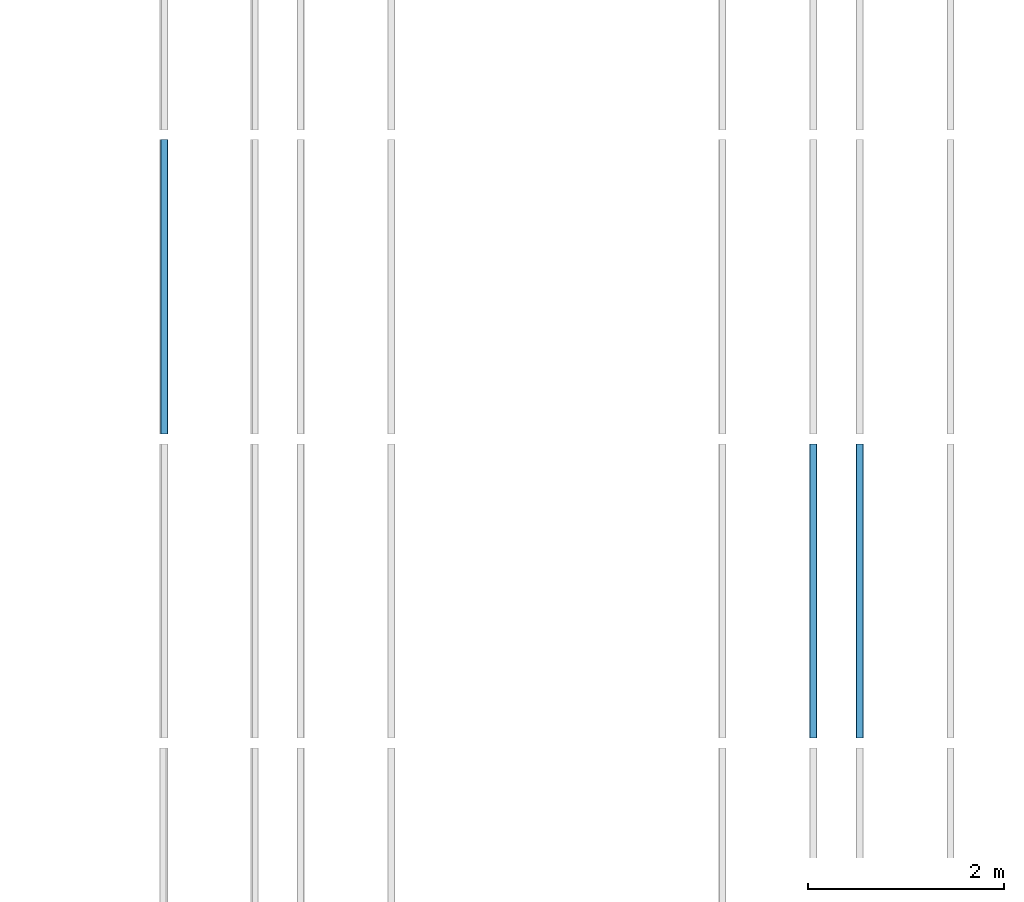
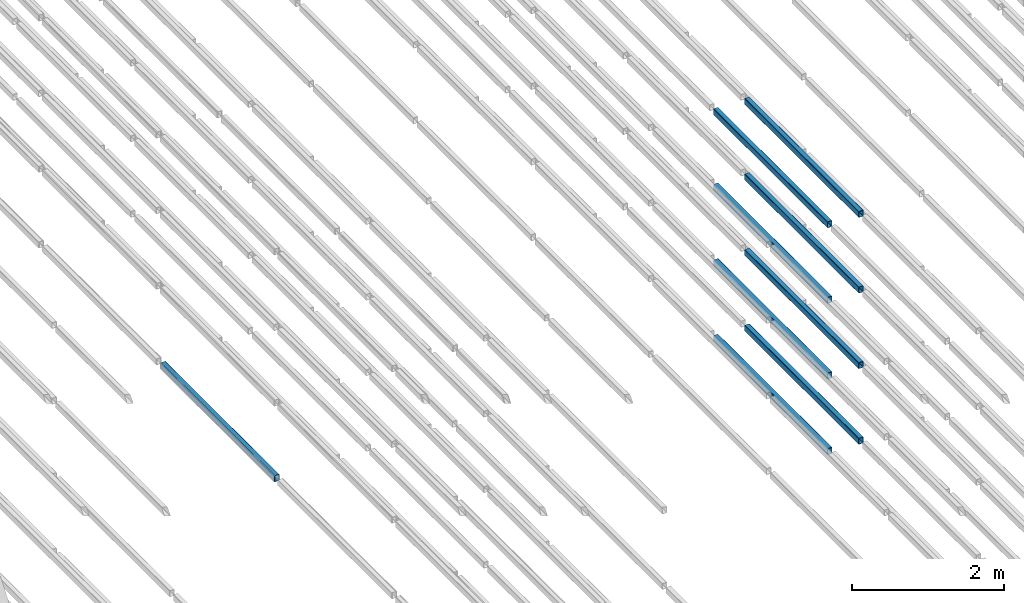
# One storey, part 45 of 290: 9 beams.
"""IFC2X3 building model written with IfcOpenShell, lengths in metres."""

import ifcopenshell
import ifcopenshell.guid

model = None  # the IFC model being written
_history = None  # IfcOwnerHistory: only IFC2X3 demands one
_inside = {}  # id of a spatial element -> (the spatial element, [elements in it])
_under = {}  # id of a project, library or spatial element -> (it, [spatial elements below it])
_declared = {}  # id of a project -> (the project, [libraries it declares])
_typed = {}  # id of a type object -> (the type object, [elements of that type])
_made_of = {}  # id of a material, layer set ... -> (it, [elements and type objects made of it])


def new_model(schema):
    """Start an empty IFC model of exactly this schema.

    Asked for "IFC4X3", IfcOpenShell would pick the latest addendum, in which some entities
    have other attributes; the version numbers below select the first issue.
    IFC2X3 requires an IfcOwnerHistory on every rooted entity: one is made here for all.
    """
    global model, _history
    if schema == "IFC4X3":
        model = ifcopenshell.file(schema_version=(4, 3, 0, 0))
    else:
        model = ifcopenshell.file(schema=schema)
    _inside.clear()
    _under.clear()
    _declared.clear()
    _typed.clear()
    _made_of.clear()
    _history = None
    if model.schema == "IFC2X3":
        org = make("IfcOrganization", Name="unknown")
        user = make(
            "IfcPersonAndOrganization",
            ThePerson=make("IfcPerson", FamilyName="unknown"),
            TheOrganization=org,
        )
        app = make(
            "IfcApplication",
            ApplicationDeveloper=org,
            Version="unknown",
            ApplicationFullName="unknown",
            ApplicationIdentifier="unknown",
        )
        _history = make(
            "IfcOwnerHistory",
            OwningUser=user,
            OwningApplication=app,
            ChangeAction="ADDED",
            CreationDate=0,
        )
    return model


def make(cls, **values):
    """One entity of the class cls with the attributes given. An attribute that is None is left unset."""
    return model.create_entity(
        cls, **{name: value for name, value in values.items() if value is not None}
    )


def entity(cls, *values):
    """Any entity or typed value of the class cls, its attributes in the order of the schema. None: left unset."""
    e = model.create_entity(cls)
    for i, value in enumerate(values):
        if value is not None:
            e[i] = value
    return e


def rooted(cls, **values):
    """An entity with a GlobalId (a new one), such as an element, a storey or a relation."""
    return make(cls, GlobalId=ifcopenshell.guid.new(), OwnerHistory=_history, **values)


def si_unit(unit_type, name, prefix=None):
    """IfcSIUnit, for example si_unit("LENGTHUNIT", "METRE", prefix="MILLI")."""
    return make("IfcSIUnit", UnitType=unit_type, Prefix=prefix, Name=name)


def converted_unit(unit_type, name, factor, base, dimensions=None, offset=None):
    """IfcConversionBasedUnit, such as the inch: factor (a typed value) times the base unit."""
    return make(
        "IfcConversionBasedUnit"
        if offset is None
        else "IfcConversionBasedUnitWithOffset",
        ConversionOffset=offset,
        Dimensions=None
        if dimensions is None
        else entity("IfcDimensionalExponents", *dimensions),
        UnitType=unit_type,
        Name=name,
        ConversionFactor=make(
            "IfcMeasureWithUnit", ValueComponent=factor, UnitComponent=base
        ),
    )


def derived_unit(unit_type, elements):
    """IfcDerivedUnit: a product of units, each with its exponent."""
    return make(
        "IfcDerivedUnit",
        Elements=[
            make("IfcDerivedUnitElement", Unit=unit, Exponent=power)
            for unit, power in elements
        ],
        UnitType=unit_type,
    )


def assignment(units):
    """IfcUnitAssignment: the units of a project."""
    return None if units is None else make("IfcUnitAssignment", Units=units)


def point(xyz):
    """IfcCartesianPoint."""
    return None if xyz is None else make("IfcCartesianPoint", Coordinates=xyz)


def direction(xyz):
    """IfcDirection."""
    return None if xyz is None else make("IfcDirection", DirectionRatios=xyz)


def frame(location, z_axis=None, x_axis=None):
    """IfcAxis2Placement3D, a coordinate frame: its origin and axes. An axis left out is left unset."""
    return make(
        "IfcAxis2Placement3D",
        Location=point(location),
        Axis=direction(z_axis),
        RefDirection=direction(x_axis),
    )


def frame_2d(location, x_axis=None):
    """IfcAxis2Placement2D, a coordinate frame in the plane: its origin and x axis."""
    return make(
        "IfcAxis2Placement2D", Location=point(location), RefDirection=direction(x_axis)
    )


def origin():
    """The frame at (0, 0, 0) with its axes left unset."""
    return frame((0.0, 0.0, 0.0))


def place(relative_to, where):
    """IfcLocalPlacement: puts the frame where relative to a parent placement (None: the world)."""
    return make(
        "IfcLocalPlacement", PlacementRelTo=relative_to, RelativePlacement=where
    )


def context(
    kind, dimensions, precision=None, world=None, true_north=None, identifier=None
):
    """IfcGeometricRepresentationContext, for example the 3D "Model" context."""
    return make(
        "IfcGeometricRepresentationContext",
        ContextIdentifier=identifier,
        ContextType=kind,
        CoordinateSpaceDimension=dimensions,
        Precision=precision,
        WorldCoordinateSystem=world,
        TrueNorth=true_north,
    )


def subcontext(parent, identifier, kind, view, scale=None):
    """IfcGeometricRepresentationSubContext, for example "Body" below "Model"."""
    return make(
        "IfcGeometricRepresentationSubContext",
        ContextIdentifier=identifier,
        ContextType=kind,
        ParentContext=parent,
        TargetScale=scale,
        TargetView=view,
    )


def project(units=None, contexts=None):
    """IfcProject with its units and contexts."""
    return rooted(
        "IfcProject",
        Name="project",
        RepresentationContexts=contexts,
        UnitsInContext=assignment(units),
    )


def spatial(cls, under=None, at=None, **own):
    """A site, building, storey or space (cls), placed at a placement, below another one or the project."""
    s = rooted(cls, ObjectPlacement=at, **own)
    if under is not None:
        _under.setdefault(under.id(), (under, []))[1].append(s)
    return s


def polyline(points):
    """IfcPolyline through the points."""
    return make("IfcPolyline", Points=[point(p) for p in points])


def circle_curve(where, radius):
    """IfcCircle in the frame where."""
    return make("IfcCircle", Position=where, Radius=radius)


def parameter(value):
    """IfcParameterValue: where a trimmed curve begins or ends, as a parameter of its basis curve."""
    return model.create_entity("IfcParameterValue", value)


def trimmed(basis, trim1, trim2, sense, master):
    """IfcTrimmedCurve: the piece of a basis curve between two trims."""
    return make(
        "IfcTrimmedCurve",
        BasisCurve=basis,
        Trim1=trim1,
        Trim2=trim2,
        SenseAgreement=sense,
        MasterRepresentation=master,
    )


def segment(curve, same_sense, transition):
    """IfcCompositeCurveSegment."""
    return make(
        "IfcCompositeCurveSegment",
        Transition=transition,
        SameSense=same_sense,
        ParentCurve=curve,
    )


def composite_curve(segments, self_intersect=None):
    """IfcCompositeCurve: segments joined end to end."""
    return make("IfcCompositeCurve", Segments=segments, SelfIntersect=self_intersect)


def outline(outer, holes=None, kind="AREA"):
    """IfcArbitraryClosedProfileDef: a profile drawn as a closed curve; with holes, ...WithVoids."""
    if holes is None:
        return make("IfcArbitraryClosedProfileDef", ProfileType=kind, OuterCurve=outer)
    return make(
        "IfcArbitraryProfileDefWithVoids",
        ProfileType=kind,
        OuterCurve=outer,
        InnerCurves=holes,
    )


def extrude(swept, where, along, depth):
    """IfcExtrudedAreaSolid: the profile swept, set in the frame where, extruded along a direction by depth."""
    return make(
        "IfcExtrudedAreaSolid",
        SweptArea=swept,
        Position=where,
        ExtrudedDirection=direction(along),
        Depth=depth,
    )


def shape(context_of_items, identifier, shape_type, items):
    """IfcShapeRepresentation: the items that make up one representation, for example the "Body"."""
    return make(
        "IfcShapeRepresentation",
        ContextOfItems=context_of_items,
        RepresentationIdentifier=identifier,
        RepresentationType=shape_type,
        Items=items,
    )


def material(Name=None, Category=None):
    """IfcMaterial."""
    return make("IfcMaterial", Name=Name, Category=Category)


def made_of(thing, what):
    """Note that an element or type object is made of a material, layer set ...; save() writes the relation."""
    if what is not None:
        _made_of.setdefault(what.id(), (what, []))[1].append(thing)
    return thing


def type_object(cls, material=None, **own):
    """A type object (cls), such as IfcWallType, which elements share."""
    return made_of(rooted(cls, **own), material)


def element(
    cls,
    number,
    at=None,
    inside=None,
    cuts=None,
    type_object=None,
    material=None,
    context=None,
    identifier="Body",
    shape_type=None,
    held_by="IfcProductDefinitionShape",
    body=None,
    shapes=None,
    **own,
):
    """One element of the class cls, such as IfcWall. Its Tag is "e" and its number.

    at: its placement. inside: the storey or other place that contains it. cuts: it is an
    opening in that element (IfcRelVoidsElement). A single representation is given by context,
    identifier, shape_type and body (its items); several are given by shapes. held_by: the class
    of the entity that holds the representations. save() writes the other relations.
    """
    e = rooted(cls, Tag="e%d" % number, ObjectPlacement=at, **own)
    if body is not None:
        shapes = [shape(context, identifier, shape_type, body)]
    if shapes is not None:
        e.Representation = make(held_by, Representations=shapes)
    if inside is not None:
        _inside.setdefault(inside.id(), (inside, []))[1].append(e)
    if cuts is not None:
        rooted(
            "IfcRelVoidsElement", RelatingBuildingElement=cuts, RelatedOpeningElement=e
        )
    if type_object is not None:
        _typed.setdefault(type_object.id(), (type_object, []))[1].append(e)
    return made_of(e, material)


def aggregate(whole, parts):
    """IfcRelAggregates: a whole, such as a stair, and the parts it consists of."""
    return rooted("IfcRelAggregates", RelatingObject=whole, RelatedObjects=parts)


def save(model, path):
    """Write the relations noted so far, then the file.

    IfcRelAggregates (storeys below a building ...), IfcRelContainedInSpatialStructure (elements
    in a storey), IfcRelDefinesByType, IfcRelAssociatesMaterial and IfcRelDeclares: one each for
    every whole, place, type object, material and project.
    """
    for whole, parts in _under.values():
        aggregate(whole, parts)
    for where, things in _inside.values():
        rooted(
            "IfcRelContainedInSpatialStructure",
            RelatedElements=things,
            RelatingStructure=where,
        )
    for kind, things in _typed.values():
        rooted("IfcRelDefinesByType", RelatedObjects=things, RelatingType=kind)
    for what, things in _made_of.values():
        rooted("IfcRelAssociatesMaterial", RelatedObjects=things, RelatingMaterial=what)
    for by, libraries in _declared.values():
        rooted("IfcRelDeclares", RelatingContext=by, RelatedDefinitions=libraries)
    model.write(path)


model = new_model("IFC2X3")

# Units and contexts
model_context = context("Model", 3, precision=1e-05, world=origin(), true_north=direction((6.12303176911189e-17, 1.0)))
body_context = subcontext(model_context, "Body", "Model", "MODEL_VIEW")
ifc_project = project(units=[si_unit("LENGTHUNIT", "METRE"), si_unit("AREAUNIT", "SQUARE_METRE"), si_unit("VOLUMEUNIT", "CUBIC_METRE"), converted_unit("PLANEANGLEUNIT", "DEGREE", entity("IfcRatioMeasure", 0.0174532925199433), si_unit("PLANEANGLEUNIT", "RADIAN"), dimensions=[0, 0, 0, 0, 0, 0, 0]), si_unit("MASSUNIT", "GRAM", prefix="KILO"), derived_unit("MASSDENSITYUNIT", [(si_unit("MASSUNIT", "GRAM", prefix="KILO"), 1), (si_unit("LENGTHUNIT", "METRE"), -3)]), derived_unit("MOMENTOFINERTIAUNIT", [(si_unit("LENGTHUNIT", "METRE"), 4)]), si_unit("TIMEUNIT", "SECOND"), si_unit("FREQUENCYUNIT", "HERTZ"), si_unit("THERMODYNAMICTEMPERATUREUNIT", "DEGREE_CELSIUS"), derived_unit("THERMALTRANSMITTANCEUNIT", [(si_unit("MASSUNIT", "GRAM", prefix="KILO"), 1), (si_unit("THERMODYNAMICTEMPERATUREUNIT", "KELVIN"), -1), (si_unit("TIMEUNIT", "SECOND"), -3)]), derived_unit("VOLUMETRICFLOWRATEUNIT", [(si_unit("LENGTHUNIT", "METRE"), 3), (si_unit("TIMEUNIT", "SECOND"), -1)]), si_unit("ELECTRICCURRENTUNIT", "AMPERE"), si_unit("ELECTRICVOLTAGEUNIT", "VOLT"), si_unit("POWERUNIT", "WATT"), si_unit("FORCEUNIT", "NEWTON", prefix="KILO"), si_unit("ILLUMINANCEUNIT", "LUX"), si_unit("LUMINOUSFLUXUNIT", "LUMEN"), si_unit("LUMINOUSINTENSITYUNIT", "CANDELA"), derived_unit("USERDEFINED", [(si_unit("MASSUNIT", "GRAM", prefix="KILO"), -1), (si_unit("LENGTHUNIT", "METRE"), -2), (si_unit("TIMEUNIT", "SECOND"), 3), (si_unit("LUMINOUSFLUXUNIT", "LUMEN"), 1)]), derived_unit("LINEARVELOCITYUNIT", [(si_unit("LENGTHUNIT", "METRE"), 1), (si_unit("TIMEUNIT", "SECOND"), -1)]), si_unit("PRESSUREUNIT", "PASCAL"), derived_unit("USERDEFINED", [(si_unit("LENGTHUNIT", "METRE"), -2), (si_unit("MASSUNIT", "GRAM", prefix="KILO"), 1), (si_unit("TIMEUNIT", "SECOND"), -2)]), derived_unit("LINEARFORCEUNIT", [(si_unit("MASSUNIT", "GRAM", prefix="KILO"), 1), (si_unit("LENGTHUNIT", "METRE"), 1), (si_unit("TIMEUNIT", "SECOND"), -2), (si_unit("LENGTHUNIT", "METRE"), -1)]), derived_unit("PLANARFORCEUNIT", [(si_unit("MASSUNIT", "GRAM", prefix="KILO"), 1), (si_unit("LENGTHUNIT", "METRE"), 1), (si_unit("TIMEUNIT", "SECOND"), -2), (si_unit("LENGTHUNIT", "METRE"), -2)])], contexts=[model_context])

# Site, building, storey
site_placement = place(None, origin())
site = spatial("IfcSite", under=ifc_project, at=site_placement, Name="Default", CompositionType="ELEMENT")
building_placement = place(site_placement, origin())
building = spatial("IfcBuilding", under=site, at=building_placement, CompositionType="ELEMENT")
storey_placement = place(building_placement, frame((0.0, 0.0, 4.0)))
storey = spatial("IfcBuildingStorey", under=building, at=storey_placement, Name="01_OG", CompositionType="ELEMENT", Elevation=4.0)

# Beams
ifc_material = material(Name="Metall - Baustahl S235 blau")
beam_type = type_object("IfcBeamType", Name="RHS Träger (EN 10219-2):RHS 100 x 75 x 5", PredefinedType="NOTDEFINED")
beam_1_placement = place(storey_placement, frame((-195.565111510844, 33.348088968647, -1.2), z_axis=(0.0, 0.0, 1.0), x_axis=(0.0, 1.0, 0.0)))
element("IfcBeam", 1, at=beam_1_placement, inside=storey, type_object=beam_type, material=ifc_material, Name="RHS Träger (EN 10219-2):RHS 100 x 75 x 5", ObjectType="RHS Träger (EN 10219-2):RHS 100 x 75 x 5", context=body_context, shape_type="SweptSolid", body=[
    extrude(outline(composite_curve([segment(polyline([(-0.0400000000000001, -0.0374999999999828), (0.0400000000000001, -0.0374999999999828)]), True, "CONTINUOUS"), segment(trimmed(circle_curve(frame_2d((0.0400000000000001, -0.0274999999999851), x_axis=(0.0, 1.0)), 0.01), [parameter(180.0)], [parameter(270.0)], True, "PARAMETER"), True, "CONTINUOUS"), segment(polyline([(0.05, -0.0274999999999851), (0.05, 0.0274999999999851)]), True, "CONTINUOUS"), segment(trimmed(circle_curve(frame_2d((0.0400000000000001, 0.0274999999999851), x_axis=(0.0, 1.0)), 0.01), [parameter(270.0)], [parameter(4.07110999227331e-13)], True, "PARAMETER"), True, "CONTINUOUS"), segment(polyline([(0.0400000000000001, 0.0375000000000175), (-0.0400000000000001, 0.0375000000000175)]), True, "CONTINUOUS"), segment(trimmed(circle_curve(frame_2d((-0.0400000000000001, 0.0274999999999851), x_axis=(0.0, 1.0)), 0.01), [parameter(360.0)], [parameter(90.0000000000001)], True, "PARAMETER"), True, "CONTINUOUS"), segment(polyline([(-0.05, 0.0274999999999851), (-0.05, -0.0274999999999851)]), True, "CONTINUOUS"), segment(trimmed(circle_curve(frame_2d((-0.0400000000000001, -0.0274999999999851), x_axis=(0.0, 1.0)), 0.01), [parameter(90.0000000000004)], [parameter(180.0)], True, "PARAMETER"), True, "CONTINUOUS")], self_intersect=False), holes=[composite_curve([segment(trimmed(circle_curve(frame_2d((-0.0400000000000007, 0.0274999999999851), x_axis=(0.0, 1.0)), 0.005), [parameter(360.0)], [parameter(89.9999999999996)], True, "PARAMETER"), False, "CONTINUOUS"), segment(polyline([(-0.0400000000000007, 0.0325000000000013), (0.039999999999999, 0.0325000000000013)]), True, "CONTINUOUS"), segment(trimmed(circle_curve(frame_2d((0.039999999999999, 0.0274999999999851), x_axis=(0.0, 1.0)), 0.005), [parameter(270.0)], [parameter(0.0)], True, "PARAMETER"), False, "CONTINUOUS"), segment(polyline([(0.044999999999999, 0.0274999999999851), (0.044999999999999, -0.0274999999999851)]), True, "CONTINUOUS"), segment(trimmed(circle_curve(frame_2d((0.039999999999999, -0.0274999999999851), x_axis=(0.0, 1.0)), 0.005), [parameter(180.0)], [parameter(269.999999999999)], True, "PARAMETER"), False, "CONTINUOUS"), segment(polyline([(0.039999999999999, -0.0325000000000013), (-0.0400000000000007, -0.0325000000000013)]), True, "CONTINUOUS"), segment(trimmed(circle_curve(frame_2d((-0.0400000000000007, -0.0274999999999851), x_axis=(0.0, 1.0)), 0.005), [parameter(90.0000000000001)], [parameter(180.0)], True, "PARAMETER"), False, "CONTINUOUS"), segment(polyline([(-0.0450000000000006, -0.0274999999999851), (-0.0450000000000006, 0.0274999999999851)]), True, "CONTINUOUS")], self_intersect=False)]), frame((0.000100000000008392, -0.0375000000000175, -0.0500000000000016), z_axis=(1.0, 0.0, 0.0), x_axis=(0.0, 0.0, -1.0)), (0.0, 0.0, 1.0), 2.9998),
])
beam_2_placement = place(storey_placement, frame((-195.565111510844, 33.348088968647, 0.0150000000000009), z_axis=(0.0, 0.0, 1.0), x_axis=(0.0, 1.0, 0.0)))
element("IfcBeam", 2, at=beam_2_placement, inside=storey, type_object=beam_type, material=ifc_material, Name="RHS Träger (EN 10219-2):RHS 100 x 75 x 5", ObjectType="RHS Träger (EN 10219-2):RHS 100 x 75 x 5", context=body_context, shape_type="SweptSolid", body=[
    extrude(outline(composite_curve([segment(polyline([(-0.0400000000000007, -0.0374999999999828), (0.0399999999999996, -0.0374999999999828)]), True, "CONTINUOUS"), segment(trimmed(circle_curve(frame_2d((0.0399999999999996, -0.0274999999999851), x_axis=(0.0, 1.0)), 0.01), [parameter(180.0)], [parameter(270.0)], True, "PARAMETER"), True, "CONTINUOUS"), segment(polyline([(0.0499999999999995, -0.0274999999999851), (0.0499999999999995, 0.0274999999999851)]), True, "CONTINUOUS"), segment(trimmed(circle_curve(frame_2d((0.0399999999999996, 0.0274999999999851), x_axis=(0.0, 1.0)), 0.01), [parameter(270.0)], [parameter(4.07110999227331e-13)], True, "PARAMETER"), True, "CONTINUOUS"), segment(polyline([(0.0399999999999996, 0.0375000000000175), (-0.0400000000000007, 0.0375000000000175)]), True, "CONTINUOUS"), segment(trimmed(circle_curve(frame_2d((-0.0400000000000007, 0.0274999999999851), x_axis=(0.0, 1.0)), 0.01), [parameter(360.0)], [parameter(90.0000000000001)], True, "PARAMETER"), True, "CONTINUOUS"), segment(polyline([(-0.0500000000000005, 0.0274999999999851), (-0.0500000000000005, -0.0274999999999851)]), True, "CONTINUOUS"), segment(trimmed(circle_curve(frame_2d((-0.0400000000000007, -0.0274999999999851), x_axis=(0.0, 1.0)), 0.01), [parameter(90.0000000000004)], [parameter(180.0)], True, "PARAMETER"), True, "CONTINUOUS")], self_intersect=False), holes=[composite_curve([segment(trimmed(circle_curve(frame_2d((-0.0400000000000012, 0.0274999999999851), x_axis=(0.0, 1.0)), 0.005), [parameter(360.0)], [parameter(89.9999999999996)], True, "PARAMETER"), False, "CONTINUOUS"), segment(polyline([(-0.0400000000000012, 0.0325000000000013), (0.0399999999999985, 0.0325000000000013)]), True, "CONTINUOUS"), segment(trimmed(circle_curve(frame_2d((0.0399999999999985, 0.0274999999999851), x_axis=(0.0, 1.0)), 0.005), [parameter(270.0)], [parameter(0.0)], True, "PARAMETER"), False, "CONTINUOUS"), segment(polyline([(0.0449999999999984, 0.0274999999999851), (0.0449999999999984, -0.0274999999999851)]), True, "CONTINUOUS"), segment(trimmed(circle_curve(frame_2d((0.0399999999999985, -0.0274999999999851), x_axis=(0.0, 1.0)), 0.005), [parameter(180.0)], [parameter(269.999999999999)], True, "PARAMETER"), False, "CONTINUOUS"), segment(polyline([(0.0399999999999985, -0.0325000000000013), (-0.0400000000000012, -0.0325000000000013)]), True, "CONTINUOUS"), segment(trimmed(circle_curve(frame_2d((-0.0400000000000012, -0.0274999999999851), x_axis=(0.0, 1.0)), 0.005), [parameter(90.0000000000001)], [parameter(180.0)], True, "PARAMETER"), False, "CONTINUOUS"), segment(polyline([(-0.0450000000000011, -0.0274999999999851), (-0.0450000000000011, 0.0274999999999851)]), True, "CONTINUOUS")], self_intersect=False)]), frame((0.000100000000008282, -0.0375000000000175, -0.0500000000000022), z_axis=(1.0, 0.0, 0.0), x_axis=(0.0, 0.0, -1.0)), (0.0, 0.0, 1.0), 2.9998),
])
beam_3_placement = place(storey_placement, frame((-195.565111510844, 33.348088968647, 1.23), z_axis=(0.0, 0.0, 1.0), x_axis=(0.0, 1.0, 0.0)))
element("IfcBeam", 3, at=beam_3_placement, inside=storey, type_object=beam_type, material=ifc_material, Name="RHS Träger (EN 10219-2):RHS 100 x 75 x 5", ObjectType="RHS Träger (EN 10219-2):RHS 100 x 75 x 5", context=body_context, shape_type="SweptSolid", body=[
    extrude(outline(composite_curve([segment(polyline([(-0.0399999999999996, -0.0374999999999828), (0.0399999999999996, -0.0374999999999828)]), True, "CONTINUOUS"), segment(trimmed(circle_curve(frame_2d((0.0399999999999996, -0.0274999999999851), x_axis=(0.0, 1.0)), 0.01), [parameter(180.0)], [parameter(270.0)], True, "PARAMETER"), True, "CONTINUOUS"), segment(polyline([(0.0500000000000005, -0.0274999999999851), (0.0500000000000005, 0.0274999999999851)]), True, "CONTINUOUS"), segment(trimmed(circle_curve(frame_2d((0.0399999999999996, 0.0274999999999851), x_axis=(0.0, 1.0)), 0.01), [parameter(270.0)], [parameter(4.07110999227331e-13)], True, "PARAMETER"), True, "CONTINUOUS"), segment(polyline([(0.0399999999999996, 0.0375000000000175), (-0.0399999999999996, 0.0375000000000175)]), True, "CONTINUOUS"), segment(trimmed(circle_curve(frame_2d((-0.0399999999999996, 0.0274999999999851), x_axis=(0.0, 1.0)), 0.01), [parameter(360.0)], [parameter(90.0000000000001)], True, "PARAMETER"), True, "CONTINUOUS"), segment(polyline([(-0.0499999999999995, 0.0274999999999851), (-0.0499999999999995, -0.0274999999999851)]), True, "CONTINUOUS"), segment(trimmed(circle_curve(frame_2d((-0.0399999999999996, -0.0274999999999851), x_axis=(0.0, 1.0)), 0.01), [parameter(90.0000000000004)], [parameter(180.0)], True, "PARAMETER"), True, "CONTINUOUS")], self_intersect=False), holes=[composite_curve([segment(trimmed(circle_curve(frame_2d((-0.0400000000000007, 0.0274999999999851), x_axis=(0.0, 1.0)), 0.005), [parameter(360.0)], [parameter(89.9999999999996)], True, "PARAMETER"), False, "CONTINUOUS"), segment(polyline([(-0.0400000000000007, 0.0325000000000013), (0.0399999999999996, 0.0325000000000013)]), True, "CONTINUOUS"), segment(trimmed(circle_curve(frame_2d((0.0399999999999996, 0.0274999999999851), x_axis=(0.0, 1.0)), 0.005), [parameter(270.0)], [parameter(0.0)], True, "PARAMETER"), False, "CONTINUOUS"), segment(polyline([(0.0449999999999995, 0.0274999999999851), (0.0449999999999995, -0.0274999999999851)]), True, "CONTINUOUS"), segment(trimmed(circle_curve(frame_2d((0.0399999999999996, -0.0274999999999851), x_axis=(0.0, 1.0)), 0.005), [parameter(180.0)], [parameter(269.999999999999)], True, "PARAMETER"), False, "CONTINUOUS"), segment(polyline([(0.0399999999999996, -0.0325000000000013), (-0.0400000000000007, -0.0325000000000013)]), True, "CONTINUOUS"), segment(trimmed(circle_curve(frame_2d((-0.0400000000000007, -0.0274999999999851), x_axis=(0.0, 1.0)), 0.005), [parameter(90.0000000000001)], [parameter(180.0)], True, "PARAMETER"), False, "CONTINUOUS"), segment(polyline([(-0.0450000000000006, -0.0274999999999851), (-0.0450000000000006, 0.0274999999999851)]), True, "CONTINUOUS")], self_intersect=False)]), frame((0.000100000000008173, -0.0375000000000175, -0.0500000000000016), z_axis=(1.0, 0.0, 0.0), x_axis=(0.0, 0.0, -1.0)), (0.0, 0.0, 1.0), 2.9998),
])
beam_4_placement = place(storey_placement, frame((-195.565111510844, 33.348088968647, 2.445), z_axis=(0.0, 0.0, 1.0), x_axis=(0.0, 1.0, 0.0)))
element("IfcBeam", 4, at=beam_4_placement, inside=storey, type_object=beam_type, material=ifc_material, Name="RHS Träger (EN 10219-2):RHS 100 x 75 x 5", ObjectType="RHS Träger (EN 10219-2):RHS 100 x 75 x 5", context=body_context, shape_type="SweptSolid", body=[
    extrude(outline(composite_curve([segment(polyline([(-0.0399999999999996, -0.0374999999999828), (0.0399999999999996, -0.0374999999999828)]), True, "CONTINUOUS"), segment(trimmed(circle_curve(frame_2d((0.0399999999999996, -0.0274999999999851), x_axis=(0.0, 1.0)), 0.01), [parameter(180.0)], [parameter(270.0)], True, "PARAMETER"), True, "CONTINUOUS"), segment(polyline([(0.0500000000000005, -0.0274999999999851), (0.0500000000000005, 0.0274999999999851)]), True, "CONTINUOUS"), segment(trimmed(circle_curve(frame_2d((0.0399999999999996, 0.0274999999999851), x_axis=(0.0, 1.0)), 0.01), [parameter(270.0)], [parameter(4.07110999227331e-13)], True, "PARAMETER"), True, "CONTINUOUS"), segment(polyline([(0.0399999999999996, 0.0375000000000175), (-0.0399999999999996, 0.0375000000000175)]), True, "CONTINUOUS"), segment(trimmed(circle_curve(frame_2d((-0.0399999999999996, 0.0274999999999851), x_axis=(0.0, 1.0)), 0.01), [parameter(360.0)], [parameter(90.0000000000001)], True, "PARAMETER"), True, "CONTINUOUS"), segment(polyline([(-0.0499999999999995, 0.0274999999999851), (-0.0499999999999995, -0.0274999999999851)]), True, "CONTINUOUS"), segment(trimmed(circle_curve(frame_2d((-0.0399999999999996, -0.0274999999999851), x_axis=(0.0, 1.0)), 0.01), [parameter(90.0000000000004)], [parameter(180.0)], True, "PARAMETER"), True, "CONTINUOUS")], self_intersect=False), holes=[composite_curve([segment(trimmed(circle_curve(frame_2d((-0.0400000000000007, 0.0274999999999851), x_axis=(0.0, 1.0)), 0.005), [parameter(360.0)], [parameter(89.9999999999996)], True, "PARAMETER"), False, "CONTINUOUS"), segment(polyline([(-0.0400000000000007, 0.0325000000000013), (0.0399999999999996, 0.0325000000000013)]), True, "CONTINUOUS"), segment(trimmed(circle_curve(frame_2d((0.0399999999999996, 0.0274999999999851), x_axis=(0.0, 1.0)), 0.005), [parameter(270.0)], [parameter(0.0)], True, "PARAMETER"), False, "CONTINUOUS"), segment(polyline([(0.0449999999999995, 0.0274999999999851), (0.0449999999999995, -0.0274999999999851)]), True, "CONTINUOUS"), segment(trimmed(circle_curve(frame_2d((0.0399999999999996, -0.0274999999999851), x_axis=(0.0, 1.0)), 0.005), [parameter(180.0)], [parameter(269.999999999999)], True, "PARAMETER"), False, "CONTINUOUS"), segment(polyline([(0.0399999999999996, -0.0325000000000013), (-0.0400000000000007, -0.0325000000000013)]), True, "CONTINUOUS"), segment(trimmed(circle_curve(frame_2d((-0.0400000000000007, -0.0274999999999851), x_axis=(0.0, 1.0)), 0.005), [parameter(90.0000000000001)], [parameter(180.0)], True, "PARAMETER"), False, "CONTINUOUS"), segment(polyline([(-0.0450000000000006, -0.0274999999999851), (-0.0450000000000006, 0.0274999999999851)]), True, "CONTINUOUS")], self_intersect=False)]), frame((0.000100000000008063, -0.0375000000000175, -0.0500000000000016), z_axis=(1.0, 0.0, 0.0), x_axis=(0.0, 0.0, -1.0)), (0.0, 0.0, 1.0), 2.9998),
])
beam_5_placement = place(storey_placement, frame((-195.015111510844, 33.348088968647, -1.2), z_axis=(0.0, 0.0, 1.0), x_axis=(0.0, 1.0, 0.0)))
element("IfcBeam", 5, at=beam_5_placement, inside=storey, type_object=beam_type, material=ifc_material, Name="RHS Träger (EN 10219-2):RHS 100 x 75 x 5", ObjectType="RHS Träger (EN 10219-2):RHS 100 x 75 x 5", context=body_context, shape_type="SweptSolid", body=[
    extrude(outline(composite_curve([segment(trimmed(circle_curve(frame_2d((-0.0275000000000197, -0.0400000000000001), x_axis=(1.0, 0.0)), 0.01), [parameter(180.0)], [parameter(270.0)], True, "PARAMETER"), True, "CONTINUOUS"), segment(polyline([(-0.0275000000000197, -0.05), (0.0274999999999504, -0.05)]), True, "CONTINUOUS"), segment(trimmed(circle_curve(frame_2d((0.0274999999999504, -0.0400000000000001), x_axis=(1.0, 0.0)), 0.01), [parameter(270.0)], [parameter(5.08888749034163e-14)], True, "PARAMETER"), True, "CONTINUOUS"), segment(polyline([(0.0374999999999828, -0.0400000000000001), (0.0374999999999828, 0.0400000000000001)]), True, "CONTINUOUS"), segment(trimmed(circle_curve(frame_2d((0.0274999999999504, 0.0400000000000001), x_axis=(1.0, 0.0)), 0.01), [parameter(360.0)], [parameter(89.9999999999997)], True, "PARAMETER"), True, "CONTINUOUS"), segment(polyline([(0.0274999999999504, 0.05), (-0.0275000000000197, 0.05)]), True, "CONTINUOUS"), segment(trimmed(circle_curve(frame_2d((-0.0275000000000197, 0.0400000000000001), x_axis=(1.0, 0.0)), 0.01), [parameter(90.0000000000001)], [parameter(180.0)], True, "PARAMETER"), True, "CONTINUOUS"), segment(polyline([(-0.0375000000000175, 0.0400000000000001), (-0.0375000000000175, -0.0400000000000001)]), True, "CONTINUOUS")], self_intersect=False), holes=[composite_curve([segment(polyline([(0.0274999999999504, -0.0450000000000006), (-0.0275000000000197, -0.0450000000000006)]), True, "CONTINUOUS"), segment(trimmed(circle_curve(frame_2d((-0.0275000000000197, -0.0400000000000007), x_axis=(1.0, 0.0)), 0.005), [parameter(180.0)], [parameter(270.0)], True, "PARAMETER"), False, "CONTINUOUS"), segment(polyline([(-0.0325000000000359, -0.0400000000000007), (-0.0325000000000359, 0.039999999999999)]), True, "CONTINUOUS"), segment(trimmed(circle_curve(frame_2d((-0.0275000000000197, 0.039999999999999), x_axis=(1.0, 0.0)), 0.005), [parameter(90.0000000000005)], [parameter(180.0)], True, "PARAMETER"), False, "CONTINUOUS"), segment(polyline([(-0.0275000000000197, 0.044999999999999), (0.0274999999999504, 0.044999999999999)]), True, "CONTINUOUS"), segment(trimmed(circle_curve(frame_2d((0.0274999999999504, 0.039999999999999), x_axis=(1.0, 0.0)), 0.005), [parameter(0.0)], [parameter(90.0000000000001)], True, "PARAMETER"), False, "CONTINUOUS"), segment(polyline([(0.0324999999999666, 0.039999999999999), (0.0324999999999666, -0.0400000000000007)]), True, "CONTINUOUS"), segment(trimmed(circle_curve(frame_2d((0.0274999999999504, -0.0400000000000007), x_axis=(1.0, 0.0)), 0.005), [parameter(270.0)], [parameter(4.07110999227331e-13)], True, "PARAMETER"), False, "CONTINUOUS")], self_intersect=False)]), frame((9.99999999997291e-05, 0.0374999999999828, -0.0500000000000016), z_axis=(1.0, 0.0, 0.0), x_axis=(0.0, -1.0, 0.0)), (0.0, 0.0, 1.0), 2.9998),
])
beam_6_placement = place(storey_placement, frame((-195.015111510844, 33.348088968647, 0.0150000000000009), z_axis=(0.0, 0.0, 1.0), x_axis=(0.0, 1.0, 0.0)))
element("IfcBeam", 6, at=beam_6_placement, inside=storey, type_object=beam_type, material=ifc_material, Name="RHS Träger (EN 10219-2):RHS 100 x 75 x 5", ObjectType="RHS Träger (EN 10219-2):RHS 100 x 75 x 5", context=body_context, shape_type="SweptSolid", body=[
    extrude(outline(composite_curve([segment(trimmed(circle_curve(frame_2d((-0.0275000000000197, -0.0400000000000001), x_axis=(1.0, 0.0)), 0.01), [parameter(180.0)], [parameter(270.0)], True, "PARAMETER"), True, "CONTINUOUS"), segment(polyline([(-0.0275000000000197, -0.05), (0.0274999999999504, -0.05)]), True, "CONTINUOUS"), segment(trimmed(circle_curve(frame_2d((0.0274999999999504, -0.0400000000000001), x_axis=(1.0, 0.0)), 0.01), [parameter(270.0)], [parameter(5.08888749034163e-14)], True, "PARAMETER"), True, "CONTINUOUS"), segment(polyline([(0.0374999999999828, -0.0400000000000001), (0.0374999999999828, 0.0400000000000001)]), True, "CONTINUOUS"), segment(trimmed(circle_curve(frame_2d((0.0274999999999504, 0.0400000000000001), x_axis=(1.0, 0.0)), 0.01), [parameter(360.0)], [parameter(89.9999999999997)], True, "PARAMETER"), True, "CONTINUOUS"), segment(polyline([(0.0274999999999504, 0.05), (-0.0275000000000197, 0.05)]), True, "CONTINUOUS"), segment(trimmed(circle_curve(frame_2d((-0.0275000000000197, 0.0400000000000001), x_axis=(1.0, 0.0)), 0.01), [parameter(90.0000000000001)], [parameter(180.0)], True, "PARAMETER"), True, "CONTINUOUS"), segment(polyline([(-0.0375000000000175, 0.0400000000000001), (-0.0375000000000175, -0.0400000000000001)]), True, "CONTINUOUS")], self_intersect=False), holes=[composite_curve([segment(polyline([(0.0274999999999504, -0.0450000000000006), (-0.0275000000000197, -0.0450000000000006)]), True, "CONTINUOUS"), segment(trimmed(circle_curve(frame_2d((-0.0275000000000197, -0.0400000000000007), x_axis=(1.0, 0.0)), 0.005), [parameter(180.0)], [parameter(270.0)], True, "PARAMETER"), False, "CONTINUOUS"), segment(polyline([(-0.0325000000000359, -0.0400000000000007), (-0.0325000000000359, 0.039999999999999)]), True, "CONTINUOUS"), segment(trimmed(circle_curve(frame_2d((-0.0275000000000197, 0.039999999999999), x_axis=(1.0, 0.0)), 0.005), [parameter(90.0000000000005)], [parameter(180.0)], True, "PARAMETER"), False, "CONTINUOUS"), segment(polyline([(-0.0275000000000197, 0.044999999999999), (0.0274999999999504, 0.044999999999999)]), True, "CONTINUOUS"), segment(trimmed(circle_curve(frame_2d((0.0274999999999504, 0.039999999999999), x_axis=(1.0, 0.0)), 0.005), [parameter(0.0)], [parameter(90.0000000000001)], True, "PARAMETER"), False, "CONTINUOUS"), segment(polyline([(0.0324999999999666, 0.039999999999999), (0.0324999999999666, -0.0400000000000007)]), True, "CONTINUOUS"), segment(trimmed(circle_curve(frame_2d((0.0274999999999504, -0.0400000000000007), x_axis=(1.0, 0.0)), 0.005), [parameter(270.0)], [parameter(4.07110999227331e-13)], True, "PARAMETER"), False, "CONTINUOUS")], self_intersect=False)]), frame((9.99999999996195e-05, 0.0374999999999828, -0.0500000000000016), z_axis=(1.0, 0.0, 0.0), x_axis=(0.0, -1.0, 0.0)), (0.0, 0.0, 1.0), 2.9998),
])
beam_7_placement = place(storey_placement, frame((-195.015111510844, 33.348088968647, 1.23), z_axis=(0.0, 0.0, 1.0), x_axis=(0.0, 1.0, 0.0)))
element("IfcBeam", 7, at=beam_7_placement, inside=storey, type_object=beam_type, material=ifc_material, Name="RHS Träger (EN 10219-2):RHS 100 x 75 x 5", ObjectType="RHS Träger (EN 10219-2):RHS 100 x 75 x 5", context=body_context, shape_type="SweptSolid", body=[
    extrude(outline(composite_curve([segment(trimmed(circle_curve(frame_2d((-0.0275000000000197, -0.0399999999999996), x_axis=(1.0, 0.0)), 0.01), [parameter(180.0)], [parameter(270.0)], True, "PARAMETER"), True, "CONTINUOUS"), segment(polyline([(-0.0275000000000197, -0.0499999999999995), (0.0274999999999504, -0.0499999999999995)]), True, "CONTINUOUS"), segment(trimmed(circle_curve(frame_2d((0.0274999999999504, -0.0399999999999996), x_axis=(1.0, 0.0)), 0.01), [parameter(270.0)], [parameter(5.08888749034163e-14)], True, "PARAMETER"), True, "CONTINUOUS"), segment(polyline([(0.0374999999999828, -0.0399999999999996), (0.0374999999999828, 0.0399999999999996)]), True, "CONTINUOUS"), segment(trimmed(circle_curve(frame_2d((0.0274999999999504, 0.0399999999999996), x_axis=(1.0, 0.0)), 0.01), [parameter(360.0)], [parameter(89.9999999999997)], True, "PARAMETER"), True, "CONTINUOUS"), segment(polyline([(0.0274999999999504, 0.0500000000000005), (-0.0275000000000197, 0.0500000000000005)]), True, "CONTINUOUS"), segment(trimmed(circle_curve(frame_2d((-0.0275000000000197, 0.0399999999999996), x_axis=(1.0, 0.0)), 0.01), [parameter(90.0000000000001)], [parameter(180.0)], True, "PARAMETER"), True, "CONTINUOUS"), segment(polyline([(-0.0375000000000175, 0.0399999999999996), (-0.0375000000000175, -0.0399999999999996)]), True, "CONTINUOUS")], self_intersect=False), holes=[composite_curve([segment(polyline([(0.0274999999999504, -0.0450000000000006), (-0.0275000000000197, -0.0450000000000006)]), True, "CONTINUOUS"), segment(trimmed(circle_curve(frame_2d((-0.0275000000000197, -0.0400000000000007), x_axis=(1.0, 0.0)), 0.005), [parameter(180.0)], [parameter(270.0)], True, "PARAMETER"), False, "CONTINUOUS"), segment(polyline([(-0.0325000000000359, -0.0400000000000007), (-0.0325000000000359, 0.0399999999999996)]), True, "CONTINUOUS"), segment(trimmed(circle_curve(frame_2d((-0.0275000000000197, 0.0399999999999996), x_axis=(1.0, 0.0)), 0.005), [parameter(90.0000000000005)], [parameter(180.0)], True, "PARAMETER"), False, "CONTINUOUS"), segment(polyline([(-0.0275000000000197, 0.0449999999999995), (0.0274999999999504, 0.0449999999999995)]), True, "CONTINUOUS"), segment(trimmed(circle_curve(frame_2d((0.0274999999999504, 0.0399999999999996), x_axis=(1.0, 0.0)), 0.005), [parameter(0.0)], [parameter(90.0000000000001)], True, "PARAMETER"), False, "CONTINUOUS"), segment(polyline([(0.0324999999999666, 0.0399999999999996), (0.0324999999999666, -0.0400000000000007)]), True, "CONTINUOUS"), segment(trimmed(circle_curve(frame_2d((0.0274999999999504, -0.0400000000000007), x_axis=(1.0, 0.0)), 0.005), [parameter(270.0)], [parameter(4.07110999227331e-13)], True, "PARAMETER"), False, "CONTINUOUS")], self_intersect=False)]), frame((9.99999999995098e-05, 0.0374999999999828, -0.0500000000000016), z_axis=(1.0, 0.0, 0.0), x_axis=(0.0, -1.0, 0.0)), (0.0, 0.0, 1.0), 2.9998),
])
beam_8_placement = place(storey_placement, frame((-195.015111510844, 33.348088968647, 2.445), z_axis=(0.0, 0.0, 1.0), x_axis=(0.0, 1.0, 0.0)))
element("IfcBeam", 8, at=beam_8_placement, inside=storey, type_object=beam_type, material=ifc_material, Name="RHS Träger (EN 10219-2):RHS 100 x 75 x 5", ObjectType="RHS Träger (EN 10219-2):RHS 100 x 75 x 5", context=body_context, shape_type="SweptSolid", body=[
    extrude(outline(composite_curve([segment(trimmed(circle_curve(frame_2d((-0.0275000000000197, -0.0399999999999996), x_axis=(1.0, 0.0)), 0.01), [parameter(180.0)], [parameter(270.0)], True, "PARAMETER"), True, "CONTINUOUS"), segment(polyline([(-0.0275000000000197, -0.0499999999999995), (0.0274999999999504, -0.0499999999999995)]), True, "CONTINUOUS"), segment(trimmed(circle_curve(frame_2d((0.0274999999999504, -0.0399999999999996), x_axis=(1.0, 0.0)), 0.01), [parameter(270.0)], [parameter(5.08888749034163e-14)], True, "PARAMETER"), True, "CONTINUOUS"), segment(polyline([(0.0374999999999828, -0.0399999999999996), (0.0374999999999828, 0.0399999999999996)]), True, "CONTINUOUS"), segment(trimmed(circle_curve(frame_2d((0.0274999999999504, 0.0399999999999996), x_axis=(1.0, 0.0)), 0.01), [parameter(360.0)], [parameter(89.9999999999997)], True, "PARAMETER"), True, "CONTINUOUS"), segment(polyline([(0.0274999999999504, 0.0500000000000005), (-0.0275000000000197, 0.0500000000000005)]), True, "CONTINUOUS"), segment(trimmed(circle_curve(frame_2d((-0.0275000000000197, 0.0399999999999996), x_axis=(1.0, 0.0)), 0.01), [parameter(90.0000000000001)], [parameter(180.0)], True, "PARAMETER"), True, "CONTINUOUS"), segment(polyline([(-0.0375000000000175, 0.0399999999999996), (-0.0375000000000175, -0.0399999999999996)]), True, "CONTINUOUS")], self_intersect=False), holes=[composite_curve([segment(polyline([(0.0274999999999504, -0.0450000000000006), (-0.0275000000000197, -0.0450000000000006)]), True, "CONTINUOUS"), segment(trimmed(circle_curve(frame_2d((-0.0275000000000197, -0.0400000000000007), x_axis=(1.0, 0.0)), 0.005), [parameter(180.0)], [parameter(270.0)], True, "PARAMETER"), False, "CONTINUOUS"), segment(polyline([(-0.0325000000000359, -0.0400000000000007), (-0.0325000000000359, 0.0399999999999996)]), True, "CONTINUOUS"), segment(trimmed(circle_curve(frame_2d((-0.0275000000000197, 0.0399999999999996), x_axis=(1.0, 0.0)), 0.005), [parameter(90.0000000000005)], [parameter(180.0)], True, "PARAMETER"), False, "CONTINUOUS"), segment(polyline([(-0.0275000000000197, 0.0449999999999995), (0.0274999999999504, 0.0449999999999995)]), True, "CONTINUOUS"), segment(trimmed(circle_curve(frame_2d((0.0274999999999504, 0.0399999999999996), x_axis=(1.0, 0.0)), 0.005), [parameter(0.0)], [parameter(90.0000000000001)], True, "PARAMETER"), False, "CONTINUOUS"), segment(polyline([(0.0324999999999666, 0.0399999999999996), (0.0324999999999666, -0.0400000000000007)]), True, "CONTINUOUS"), segment(trimmed(circle_curve(frame_2d((0.0274999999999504, -0.0400000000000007), x_axis=(1.0, 0.0)), 0.005), [parameter(270.0)], [parameter(4.07110999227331e-13)], True, "PARAMETER"), False, "CONTINUOUS")], self_intersect=False)]), frame((9.99999999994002e-05, 0.0374999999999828, -0.0500000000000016), z_axis=(1.0, 0.0, 0.0), x_axis=(0.0, -1.0, 0.0)), (0.0, 0.0, 1.0), 2.9998),
])
beam_9_placement = place(storey_placement, frame((-202.105111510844, 36.448088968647, -1.2), z_axis=(0.0, 0.0, 1.0), x_axis=(0.0, 1.0, 0.0)))
element("IfcBeam", 9, at=beam_9_placement, inside=storey, type_object=beam_type, material=ifc_material, Name="RHS Träger (EN 10219-2):RHS 100 x 75 x 5", ObjectType="RHS Träger (EN 10219-2):RHS 100 x 75 x 5", context=body_context, shape_type="SweptSolid", body=[
    extrude(outline(composite_curve([segment(trimmed(circle_curve(frame_2d((-0.0274999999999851, -0.0400000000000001), x_axis=(1.0, 0.0)), 0.01), [parameter(180.0)], [parameter(270.0)], True, "PARAMETER"), True, "CONTINUOUS"), segment(polyline([(-0.0274999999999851, -0.05), (0.0274999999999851, -0.05)]), True, "CONTINUOUS"), segment(trimmed(circle_curve(frame_2d((0.0274999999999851, -0.0400000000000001), x_axis=(1.0, 0.0)), 0.01), [parameter(270.0)], [parameter(5.08888749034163e-14)], True, "PARAMETER"), True, "CONTINUOUS"), segment(polyline([(0.0375000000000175, -0.0400000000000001), (0.0375000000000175, 0.0400000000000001)]), True, "CONTINUOUS"), segment(trimmed(circle_curve(frame_2d((0.0274999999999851, 0.0400000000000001), x_axis=(1.0, 0.0)), 0.01), [parameter(360.0)], [parameter(89.9999999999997)], True, "PARAMETER"), True, "CONTINUOUS"), segment(polyline([(0.0274999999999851, 0.05), (-0.0274999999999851, 0.05)]), True, "CONTINUOUS"), segment(trimmed(circle_curve(frame_2d((-0.0274999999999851, 0.0400000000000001), x_axis=(1.0, 0.0)), 0.01), [parameter(90.0000000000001)], [parameter(180.0)], True, "PARAMETER"), True, "CONTINUOUS"), segment(polyline([(-0.0374999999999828, 0.0400000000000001), (-0.0374999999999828, -0.0400000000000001)]), True, "CONTINUOUS")], self_intersect=False), holes=[composite_curve([segment(polyline([(0.0274999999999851, -0.0450000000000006), (-0.0274999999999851, -0.0450000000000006)]), True, "CONTINUOUS"), segment(trimmed(circle_curve(frame_2d((-0.0274999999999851, -0.0400000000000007), x_axis=(1.0, 0.0)), 0.005), [parameter(180.0)], [parameter(270.0)], True, "PARAMETER"), False, "CONTINUOUS"), segment(polyline([(-0.0325000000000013, -0.0400000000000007), (-0.0325000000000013, 0.039999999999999)]), True, "CONTINUOUS"), segment(trimmed(circle_curve(frame_2d((-0.0274999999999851, 0.039999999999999), x_axis=(1.0, 0.0)), 0.005), [parameter(90.0000000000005)], [parameter(180.0)], True, "PARAMETER"), False, "CONTINUOUS"), segment(polyline([(-0.0274999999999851, 0.044999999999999), (0.0274999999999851, 0.044999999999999)]), True, "CONTINUOUS"), segment(trimmed(circle_curve(frame_2d((0.0274999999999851, 0.039999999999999), x_axis=(1.0, 0.0)), 0.005), [parameter(0.0)], [parameter(90.0000000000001)], True, "PARAMETER"), False, "CONTINUOUS"), segment(polyline([(0.0325000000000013, 0.039999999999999), (0.0325000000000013, -0.0400000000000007)]), True, "CONTINUOUS"), segment(trimmed(circle_curve(frame_2d((0.0274999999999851, -0.0400000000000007), x_axis=(1.0, 0.0)), 0.005), [parameter(270.0)], [parameter(4.07110999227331e-13)], True, "PARAMETER"), False, "CONTINUOUS")], self_intersect=False)]), frame((9.99999999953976e-05, 0.0375000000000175, -0.0500000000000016), z_axis=(1.0, 0.0, 0.0), x_axis=(0.0, -1.0, 0.0)), (0.0, 0.0, 1.0), 2.9998),
])

save(model, "model.ifc")
